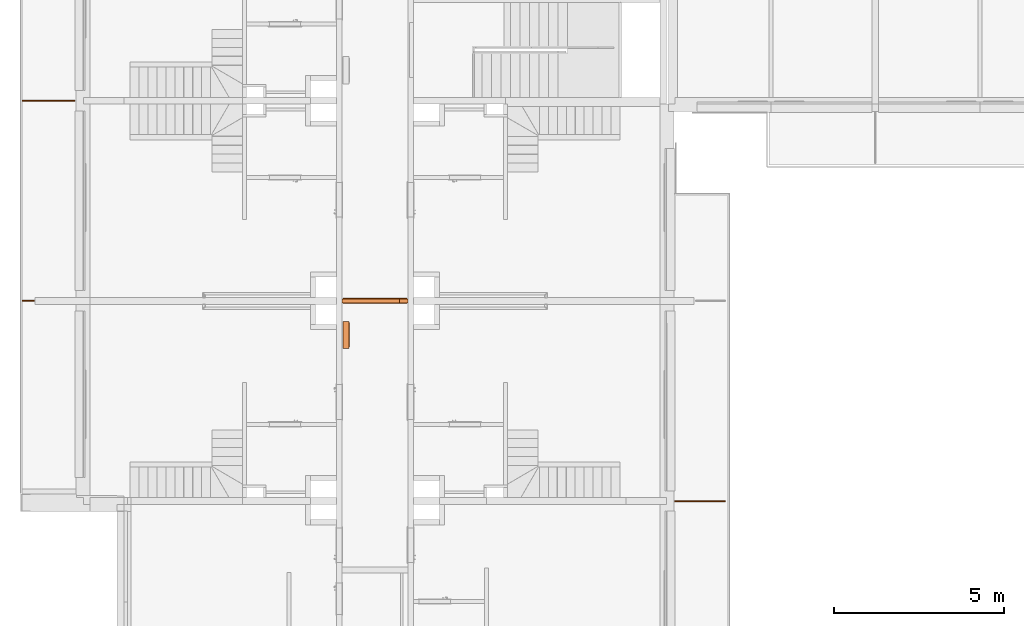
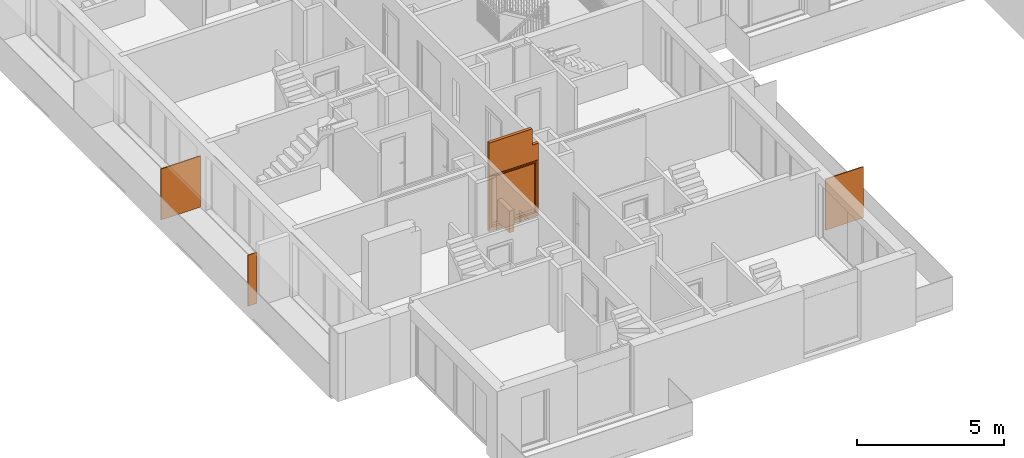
# One storey, part 11 of 61: 6 proxies, 1 opening.
"""IFC2X3 building model written with IfcOpenShell, lengths in millimetres."""

from ifc_helpers import new_model, entity, si_unit, converted_unit, derived_unit, money_unit, direction, frame, origin_with_axes, origin_2d_with_axis, place, context, subcontext, project, spatial, polyline, rectangle, outline, extrude, open_shell, faceted_brep, surface_model, source, transform, mapped, material, type_object, element, fill, save


model = new_model("IFC2X3")

# Units and contexts
model_context = context("Model", 3, precision=0.01, world=origin_with_axes(), true_north=direction((0.34421633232, 0.938890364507)))
body_context = subcontext(model_context, "Body", "Model", "MODEL_VIEW")
ifc_project = project(units=[si_unit("LENGTHUNIT", "METRE", prefix="MILLI"), si_unit("AREAUNIT", "SQUARE_METRE"), si_unit("VOLUMEUNIT", "CUBIC_METRE"), converted_unit("PLANEANGLEUNIT", "DEGREE", entity("IfcPlaneAngleMeasure", 0.0174532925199), si_unit("PLANEANGLEUNIT", "RADIAN"), dimensions=[0, 0, 0, 0, 0, 0, 0]), si_unit("SOLIDANGLEUNIT", "STERADIAN"), money_unit("USD"), converted_unit("TIMEUNIT", "Year", entity("IfcTimeMeasure", 31556926.0), si_unit("TIMEUNIT", "SECOND"), dimensions=[0, 0, 1, 0, 0, 0, 0]), si_unit("MASSUNIT", "GRAM", prefix="KILO"), si_unit("THERMODYNAMICTEMPERATUREUNIT", "DEGREE_CELSIUS"), si_unit("LUMINOUSINTENSITYUNIT", "LUMEN"), si_unit("ENERGYUNIT", "JOULE", prefix="MEGA"), derived_unit("THERMALCONDUCTANCEUNIT", [(si_unit("POWERUNIT", "WATT"), 1), (si_unit("LENGTHUNIT", "METRE"), -1), (si_unit("THERMODYNAMICTEMPERATUREUNIT", "KELVIN"), -1)]), derived_unit("SPECIFICHEATCAPACITYUNIT", [(si_unit("ENERGYUNIT", "JOULE"), 1), (si_unit("MASSUNIT", "GRAM", prefix="KILO"), -1), (si_unit("THERMODYNAMICTEMPERATUREUNIT", "KELVIN"), -1)]), derived_unit("MASSDENSITYUNIT", [(si_unit("MASSUNIT", "GRAM", prefix="KILO"), 1), (si_unit("VOLUMEUNIT", "CUBIC_METRE"), -1)])], contexts=[model_context])

# Site, building, storey
site_placement = place(None, origin_with_axes())
site = spatial("IfcSite", under=ifc_project, at=site_placement, Name="USTRONIE MORSKIE", CompositionType="ELEMENT")
building_placement = place(site_placement, origin_with_axes())
building = spatial("IfcBuilding", under=site, at=building_placement, Name="Budynek", CompositionType="ELEMENT")
storey_placement = place(building_placement, frame((0.0, 0.0, 13000.0), z_axis=(0.0, 0.0, 1.0), x_axis=(1.0, 0.0, 0.0)))
storey = spatial("IfcBuildingStorey", under=building, at=storey_placement, Name="PIĘTRO 4", CompositionType="ELEMENT", Elevation=13000.0)

# Proxies, opening
ifc_material_1 = material(Name="Bloczki silikatowe")
building_element_proxy_type_1 = type_object("IfcBuildingElementProxyType", Name="Bloczki silikatowe 120", PredefinedType="NOTDEFINED")
proxy_1_placement = place(storey_placement, frame((357517.920919, 721001.221157, -160.0), z_axis=(0.0, 0.0, 1.0), x_axis=(1.0, 0.0, 0.0)))
proxy_1 = element("IfcBuildingElementProxy", 1, at=proxy_1_placement, inside=storey, type_object=building_element_proxy_type_1, material=ifc_material_1, Name="SW-04", context=body_context, shape_type="Brep", body=[
    faceted_brep([(80.0, 59.9999999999, 3675.0), (1770.0, 59.9999999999, 3675.0), (1770.0, 59.9999999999, 3000.0), (2020.0, 59.9999999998, 3000.0), (2020.0, 59.9999999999, 0.0), (80.0, 59.9999999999, 0.0), (80.0, -59.9999999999, 3675.0), (1770.0, -59.9999999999, 3675.0), (1770.0, -60.0000920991, 3000.0), (2020.0, -59.9999999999, 3000.0), (2020.0, -59.9999999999, 0.0), (80.0, -59.9999999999, 0.0)], [[[0, 1, 2, 3, 4, 5]], [[1, 0, 6, 7]], [[8, 2, 1, 7]], [[8, 9, 3, 2]], [[9, 10, 4, 3]], [[5, 4, 10, 11]], [[11, 6, 0, 5]], [[7, 6, 11, 10, 9, 8]]]),
])
opening_placement = place(proxy_1_placement, frame((1050.0, 0.0, 160.0), z_axis=(0.0, 0.0, 1.0), x_axis=(1.0, 0.0, 0.0)))
opening = element("IfcOpeningElement", 2, at=opening_placement, cuts=proxy_1, Name="Dw.5s", context=body_context, shape_type="SweptSolid", body=[
    extrude(rectangle(XDim=1820.0, YDim=2120.0, at=origin_2d_with_axis()), frame((0.0, -120.0, 1060.0), z_axis=(0.0, 1.0, 0.0), x_axis=(1.0, 0.0, 0.0)), (0.0, 0.0, 1.0), 360.0),
    extrude(rectangle(XDim=1894.0, YDim=2157.0, at=origin_2d_with_axis()), frame((0.0, -59.9999999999, 1078.5), z_axis=(0.0, 1.0, 0.0), x_axis=(1.0, 0.0, 0.0)), (0.0, 0.0, -1.0), 120.0),
    extrude(rectangle(XDim=1894.0, YDim=2157.0, at=origin_2d_with_axis()), frame((0.0, 60.0000000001, 1078.5), z_axis=(0.0, -1.0, 0.0), x_axis=(1.0, 0.0, 0.0)), (0.0, 0.0, -1.0), 120.0),
])
building_element_proxy_type_2 = type_object("IfcBuildingElementProxyType", Name="Drzwi podwójne 23", PredefinedType="NOTDEFINED")
shared_shape_1 = source(origin_with_axes(), body_context, "Body", "SurfaceModel", [
    faceted_brep([(-910.0, -115.0, 0.0), (-885.0, -115.0, 0.0), (-885.0, -120.0, 0.0), (-910.0, -120.0, 0.0), (-910.0, -115.0, 2120.0), (-885.0, -115.0, 2095.0), (-885.0, -120.0, 2095.0), (-910.0, -120.0, 2120.0)], [[[0, 1, 2, 3]], [[0, 4, 5, 1]], [[1, 5, 6, 2]], [[3, 2, 6, 7]], [[4, 0, 3, 7]], [[5, 4, 7, 6]]]),
    faceted_brep([(910.0, -115.0, 2120.0), (885.0, -115.0, 2095.0), (885.0, -120.0, 2095.0), (910.0, -120.0, 2120.0), (910.0, -115.0, 0.0), (885.0, -115.0, 0.0), (885.0, -120.0, 0.0), (910.0, -120.0, 0.0)], [[[0, 1, 2, 3]], [[0, 4, 5, 1]], [[1, 5, 6, 2]], [[3, 2, 6, 7]], [[4, 0, 3, 7]], [[5, 4, 7, 6]]]),
    faceted_brep([(-885.0, -115.0, 2095.0), (885.0, -115.0, 2095.0), (885.0, -120.0, 2095.0), (-885.0, -120.0, 2095.0), (-910.0, -115.0, 2120.0), (910.0, -115.0, 2120.0), (910.0, -120.0, 2120.0), (-910.0, -120.0, 2120.0)], [[[0, 1, 2, 3]], [[0, 4, 5, 1]], [[1, 5, 6, 2]], [[3, 2, 6, 7]], [[4, 0, 3, 7]], [[5, 4, 7, 6]]]),
    faceted_brep([(-947.0, -139.0, 0.0), (-947.0, -120.0, 0.0), (-897.0, -120.0, 0.0), (-897.0, -139.0, 0.0), (-947.0, -139.0, 2157.0), (-947.0, -120.0, 2157.0), (-897.0, -120.0, 2107.0), (-897.0, -139.0, 2107.0)], [[[0, 1, 2, 3]], [[4, 5, 1, 0]], [[1, 5, 6, 2]], [[3, 2, 6, 7]], [[0, 3, 7, 4]], [[7, 6, 5, 4]]]),
    faceted_brep([(947.0, -139.0, 2157.0), (947.0, -120.0, 2157.0), (897.0, -120.0, 2107.0), (897.0, -139.0, 2107.0), (947.0, -139.0, 0.0), (947.0, -120.0, 0.0), (897.0, -120.0, 0.0), (897.0, -139.0, 0.0)], [[[0, 1, 2, 3]], [[4, 5, 1, 0]], [[1, 5, 6, 2]], [[3, 2, 6, 7]], [[0, 3, 7, 4]], [[7, 6, 5, 4]]]),
    faceted_brep([(-947.0, -139.0, 2157.0), (-947.0, -120.0, 2157.0), (-897.0, -120.0, 2107.0), (-897.0, -139.0, 2107.0), (947.0, -139.0, 2157.0), (947.0, -120.0, 2157.0), (897.0, -120.0, 2107.0), (897.0, -139.0, 2107.0)], [[[0, 1, 2, 3]], [[4, 5, 1, 0]], [[1, 5, 6, 2]], [[3, 2, 6, 7]], [[0, 3, 7, 4]], [[7, 6, 5, 4]]]),
    faceted_brep([(-947.0, 19.0, 0.0), (-897.0, 19.0, 0.0), (-897.0, 0.0, 0.0), (-947.0, 0.0, 0.0), (-947.0, 19.0, 2157.0), (-897.0, 19.0, 2107.0), (-897.0, 0.0, 2107.0), (-947.0, 0.0, 2157.0)], [[[0, 1, 2, 3]], [[0, 4, 5, 1]], [[1, 5, 6, 2]], [[3, 2, 6, 7]], [[4, 0, 3, 7]], [[5, 4, 7, 6]]]),
    faceted_brep([(947.0, 19.0, 2157.0), (897.0, 19.0, 2107.0), (897.0, 0.0, 2107.0), (947.0, 0.0, 2157.0), (947.0, 19.0, 0.0), (897.0, 19.0, 0.0), (897.0, 0.0, 0.0), (947.0, 0.0, 0.0)], [[[0, 1, 2, 3]], [[0, 4, 5, 1]], [[1, 5, 6, 2]], [[3, 2, 6, 7]], [[4, 0, 3, 7]], [[5, 4, 7, 6]]]),
    faceted_brep([(-947.0, 19.0, 2157.0), (-897.0, 19.0, 2107.0), (-897.0, 0.0, 2107.0), (-947.0, 0.0, 2157.0), (947.0, 19.0, 2157.0), (897.0, 19.0, 2107.0), (897.0, 0.0, 2107.0), (947.0, 0.0, 2157.0)], [[[0, 1, 2, 3]], [[0, 4, 5, 1]], [[1, 5, 6, 2]], [[3, 2, 6, 7]], [[4, 0, 3, 7]], [[5, 4, 7, 6]]]),
    faceted_brep([(-850.0, -40.0, 0.0), (-850.0, -40.0, 2050.0), (-850.0, -115.0, 2050.0), (-850.0, -115.0, 0.0), (-862.0, -40.0, 2050.0), (-862.0, -40.0, 0.0), (-862.0, 0.0, 2050.0), (-910.0, 0.0, 2050.0), (-910.0, -115.0, 2050.0), (-910.0, -115.0, 0.0), (-910.0, 0.0, 0.0), (-862.0, 0.0, 0.0)], [[[0, 1, 2, 3]], [[4, 1, 0, 5]], [[4, 6, 7, 8, 2, 1]], [[3, 2, 8, 9]], [[5, 0, 3, 9, 10, 11]], [[6, 4, 5, 11]], [[6, 11, 10, 7]], [[10, 9, 8, 7]]]),
    faceted_brep([(862.0, -40.0, 2050.0), (850.0, -40.0, 2050.0), (850.0, -115.0, 2050.0), (910.0, -115.0, 2050.0), (910.0, 0.0, 2050.0), (862.0, 0.0, 2050.0), (862.0, -40.0, 0.0), (850.0, -40.0, 0.0), (850.0, -115.0, 0.0), (910.0, -115.0, 0.0), (910.0, 0.0, 0.0), (862.0, 0.0, 0.0)], [[[0, 1, 2, 3, 4, 5]], [[1, 0, 6, 7]], [[1, 7, 8, 2]], [[3, 2, 8, 9]], [[4, 3, 9, 10]], [[11, 5, 4, 10]], [[0, 5, 11, 6]], [[6, 11, 10, 9, 8, 7]]]),
    faceted_brep([(-862.0, 0.0, 2062.0), (-862.0, 0.0, 2050.0), (-910.0, 0.0, 2050.0), (-910.0, 0.0, 2120.0), (910.0, 0.0, 2120.0), (910.0, 0.0, 2050.0), (862.0, 0.0, 2050.0), (862.0, 0.0, 2062.0), (-862.0, -40.0, 2062.0), (-862.0, -40.0, 2050.0), (-850.0, -40.0, 2050.0), (-850.0, -115.0, 2050.0), (-910.0, -115.0, 2050.0), (-910.0, -115.0, 2120.0), (910.0, -115.0, 2120.0), (910.0, -115.0, 2050.0), (862.0, -40.0, 2050.0), (850.0, -115.0, 2050.0), (850.0, -40.0, 2050.0), (862.0, -40.0, 2062.0)], [[[0, 1, 2, 3, 4, 5, 6, 7]], [[1, 0, 8, 9]], [[9, 10, 11, 12, 2, 1]], [[2, 12, 13, 3]], [[3, 13, 14, 4]], [[4, 14, 15, 5]], [[16, 6, 5, 15, 17, 18]], [[7, 6, 16, 19]], [[0, 7, 19, 8]], [[16, 18, 10, 9, 8, 19]], [[10, 18, 17, 11]], [[17, 15, 14, 13, 12, 11]]]),
    faceted_brep([(862.0, 0.0, 100.0), (862.0, -40.0, 100.0), (762.0, -40.0, 100.0), (762.0, 0.0, 100.0), (862.0, 0.0, 1962.0), (862.0, -40.0, 1962.0), (762.0, -40.0, 1962.0), (762.0, 0.0, 1962.0)], [[[0, 1, 2, 3]], [[4, 5, 1, 0]], [[1, 5, 6, 2]], [[3, 2, 6, 7]], [[0, 3, 7, 4]], [[7, 6, 5, 4]]]),
    faceted_brep([(0.0, 0.0, 100.0), (0.0, -40.0, 100.0), (0.0, -40.0, 1962.0), (0.0, 0.0, 1962.0), (100.0, 0.0, 100.0), (100.0, -40.0, 100.0), (100.0, -40.0, 1962.0), (100.0, 0.0, 1962.0)], [[[0, 1, 2, 3]], [[4, 5, 1, 0]], [[1, 5, 6, 2]], [[3, 2, 6, 7]], [[0, 3, 7, 4]], [[7, 6, 5, 4]]]),
    faceted_brep([(862.0, 0.0, 0.0), (862.0, -40.0, 0.0), (0.0, -40.0, 0.0), (0.0, 0.0, 0.0), (862.0, 0.0, 100.0), (862.0, -40.0, 100.0), (762.0, -40.0, 100.0), (100.0, -40.0, 100.0), (0.0, -40.0, 100.0), (0.0, 0.0, 100.0), (100.0, 0.0, 100.0), (762.0, 0.0, 100.0)], [[[0, 1, 2, 3]], [[4, 5, 1, 0]], [[1, 5, 6, 7, 8, 2]], [[3, 2, 8, 9]], [[0, 3, 9, 10, 11, 4]], [[11, 6, 5, 4]], [[10, 7, 6, 11]], [[9, 8, 7, 10]]]),
    faceted_brep([(862.0, 0.0, 2062.0), (862.0, -40.0, 2062.0), (862.0, -40.0, 1962.0), (862.0, 0.0, 1962.0), (0.0, 0.0, 2062.0), (0.0, -40.0, 2062.0), (0.0, -40.0, 1962.0), (100.0, -40.0, 1962.0), (762.0, -40.0, 1962.0), (762.0, 0.0, 1962.0), (100.0, 0.0, 1962.0), (0.0, 0.0, 1962.0)], [[[0, 1, 2, 3]], [[4, 5, 1, 0]], [[1, 5, 6, 7, 8, 2]], [[3, 2, 8, 9]], [[0, 3, 9, 10, 11, 4]], [[11, 6, 5, 4]], [[10, 7, 6, 11]], [[9, 8, 7, 10]]]),
    surface_model("IfcShellBasedSurfaceModel", [(762.0, -14.0, 100.0), (100.0, -14.0, 100.0), (100.0, -14.0, 1962.0), (762.0, -14.0, 1962.0)], [open_shell([[[0, 1, 2, 3]]])]),
    surface_model("IfcShellBasedSurfaceModel", [(762.0, -26.0, 100.0), (762.0, -26.0, 1962.0), (100.0, -26.0, 1962.0), (100.0, -26.0, 100.0)], [open_shell([[[0, 1, 2, 3]]])]),
    faceted_brep([(-862.0, 0.0, 100.0), (-762.0, 0.0, 100.0), (-762.0, -40.0, 100.0), (-862.0, -40.0, 100.0), (-862.0, 0.0, 1962.0), (-762.0, 0.0, 1962.0), (-762.0, -40.0, 1962.0), (-862.0, -40.0, 1962.0)], [[[0, 1, 2, 3]], [[0, 4, 5, 1]], [[1, 5, 6, 2]], [[3, 2, 6, 7]], [[4, 0, 3, 7]], [[5, 4, 7, 6]]]),
    faceted_brep([(0.0, 0.0, 100.0), (0.0, 0.0, 1962.0), (0.0, -40.0, 1962.0), (0.0, -40.0, 100.0), (-100.0, 0.0, 100.0), (-100.0, 0.0, 1962.0), (-100.0, -40.0, 1962.0), (-100.0, -40.0, 100.0)], [[[0, 1, 2, 3]], [[0, 4, 5, 1]], [[1, 5, 6, 2]], [[3, 2, 6, 7]], [[4, 0, 3, 7]], [[5, 4, 7, 6]]]),
    faceted_brep([(-862.0, 0.0, 0.0), (0.0, 0.0, 0.0), (0.0, -40.0, 0.0), (-862.0, -40.0, 0.0), (-862.0, 0.0, 100.0), (-762.0, 0.0, 100.0), (-100.0, 0.0, 100.0), (0.0, 0.0, 100.0), (0.0, -40.0, 100.0), (-100.0, -40.0, 100.0), (-762.0, -40.0, 100.0), (-862.0, -40.0, 100.0)], [[[0, 1, 2, 3]], [[0, 4, 5, 6, 7, 1]], [[1, 7, 8, 2]], [[3, 2, 8, 9, 10, 11]], [[4, 0, 3, 11]], [[5, 4, 11, 10]], [[6, 5, 10, 9]], [[7, 6, 9, 8]]]),
    faceted_brep([(-862.0, 0.0, 2062.0), (-862.0, 0.0, 1962.0), (-862.0, -40.0, 1962.0), (-862.0, -40.0, 2062.0), (0.0, 0.0, 2062.0), (0.0, 0.0, 1962.0), (-100.0, 0.0, 1962.0), (-762.0, 0.0, 1962.0), (-762.0, -40.0, 1962.0), (-100.0, -40.0, 1962.0), (0.0, -40.0, 1962.0), (0.0, -40.0, 2062.0)], [[[0, 1, 2, 3]], [[0, 4, 5, 6, 7, 1]], [[1, 7, 8, 2]], [[3, 2, 8, 9, 10, 11]], [[4, 0, 3, 11]], [[5, 4, 11, 10]], [[6, 5, 10, 9]], [[7, 6, 9, 8]]]),
    surface_model("IfcShellBasedSurfaceModel", [(-762.0, -14.0, 100.0), (-762.0, -14.0, 1962.0), (-100.0, -14.0, 1962.0), (-100.0, -14.0, 100.0)], [open_shell([[[0, 1, 2, 3]]])]),
    surface_model("IfcShellBasedSurfaceModel", [(-762.0, -26.0, 100.0), (-100.0, -26.0, 100.0), (-100.0, -26.0, 1962.0), (-762.0, -26.0, 1962.0)], [open_shell([[[0, 1, 2, 3]]])]),
])
proxy_2_placement = place(opening_placement, frame((-850.0, 0.0, 0.0), z_axis=(0.0, 0.0, 1.0), x_axis=(1.0, 0.0, 0.0)))
proxy_2 = element("IfcBuildingElementProxy", 3, at=proxy_2_placement, inside=storey, type_object=building_element_proxy_type_2, Name="Dw.5s", context=body_context, shape_type="MappedRepresentation", body=[
    mapped(shared_shape_1, transform((850.0, 60.0000000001, 0.0))),
])
fill(opening, proxy_2)

# Proxies
ifc_material_2 = material(Name="Woda")
building_element_proxy_type_3 = type_object("IfcBuildingElementProxyType", Name="Woda 30", PredefinedType="NOTDEFINED")
proxy_3_placement = place(storey_placement, frame((348517.888641, 721001.185557, 20.0), z_axis=(0.0, 0.0, 1.0), x_axis=(-0.999999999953, 9.67606483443e-06, 0.0)))
element("IfcBuildingElementProxy", 4, at=proxy_3_placement, inside=storey, type_object=building_element_proxy_type_3, material=ifc_material_2, Name="Œciana-007", context=body_context, shape_type="SweptSolid", body=[
    extrude(outline(polyline([(0.0, -15.0), (349.967722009, -15.0), (349.967722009, 15.0), (0.0, 15.0), (0.0, -15.0)])), origin_with_axes(), (0.0, 0.0, 1.0), 2120.0),
])
proxy_4_placement = place(storey_placement, frame((367397.957311, 715101.199004, 20.0), z_axis=(0.0, 0.0, 1.0), x_axis=(0.99999999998, -6.33272493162e-06, 0.0)))
element("IfcBuildingElementProxy", 5, at=proxy_4_placement, inside=storey, type_object=building_element_proxy_type_3, material=ifc_material_2, Name="Œciana-007", context=body_context, shape_type="SweptSolid", body=[
    extrude(outline(polyline([(0.0, -15.0), (1490.00000003, -15.0), (1490.00000003, 15.0000000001), (0.0, 15.0000000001), (0.0, -15.0)])), origin_with_axes(), (0.0, 0.0, 1.0), 2120.0),
])
proxy_5_placement = place(storey_placement, frame((349717.920919, 726901.199036, 20.0), z_axis=(0.0, 0.0, 1.0), x_axis=(-0.999999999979, -6.40856598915e-06, 0.0)))
element("IfcBuildingElementProxy", 6, at=proxy_5_placement, inside=storey, type_object=building_element_proxy_type_3, material=ifc_material_2, Name="Œciana-007", context=body_context, shape_type="SweptSolid", body=[
    extrude(outline(polyline([(0.0, -14.9999999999), (1550.00000003, -14.9999999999), (1550.00000003, 15.0000000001), (0.0, 15.0000000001), (0.0, -14.9999999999)])), origin_with_axes(), (0.0, 0.0, 1.0), 2120.0),
])
building_element_proxy_type_4 = type_object("IfcBuildingElementProxyType", Name="Skrzynka P-Poż 23", PredefinedType="NOTDEFINED")
shared_shape_2 = source(origin_with_axes(), body_context, "Body", "Brep", [
    faceted_brep([(0.0, 40.0, 0.0), (0.0, 20.0, 0.0), (-800.0, 20.0, 0.0), (-800.0, 40.0, 0.0), (0.0, 40.0, 900.0), (0.0, 20.0, 900.0), (-800.0, 20.0, 900.0), (-60.0, 20.0, 60.0), (-740.0, 20.0, 60.0), (-740.0, 20.0, 840.0), (-60.0, 20.0, 840.0), (-800.0, 40.0, 900.0), (-60.0, 40.0, 60.0), (-60.0, 40.0, 840.0), (-740.0, 40.0, 840.0), (-740.0, 40.0, 60.0)], [[[0, 1, 2, 3]], [[4, 5, 1, 0]], [[1, 5, 6, 2], [7, 8, 9, 10]], [[3, 2, 6, 11]], [[0, 3, 11, 4], [12, 13, 14, 15]], [[11, 6, 5, 4]], [[15, 8, 7, 12]], [[14, 9, 8, 15]], [[13, 10, 9, 14]], [[12, 7, 10, 13]]]),
    faceted_brep([(-40.0, 20.0, 40.0), (-40.0, 0.0, 40.0), (-760.0, 0.0, 40.0), (-760.0, 20.0, 40.0), (-40.0, 20.0, 860.0), (-40.0, 0.0, 860.0), (-760.0, 0.0, 860.0), (-80.0, 0.0, 80.0), (-720.0, 0.0, 80.0), (-720.0, 0.0, 820.0), (-80.0, 0.0, 820.0), (-760.0, 20.0, 860.0), (-80.0, 20.0, 80.0), (-80.0, 20.0, 820.0), (-720.0, 20.0, 820.0), (-720.0, 20.0, 80.0)], [[[0, 1, 2, 3]], [[4, 5, 1, 0]], [[1, 5, 6, 2], [7, 8, 9, 10]], [[3, 2, 6, 11]], [[0, 3, 11, 4], [12, 13, 14, 15]], [[11, 6, 5, 4]], [[15, 8, 7, 12]], [[14, 9, 8, 15]], [[13, 10, 9, 14]], [[12, 7, 10, 13]]]),
    faceted_brep([(0.0, 180.0, 0.0), (0.0, 40.0, 0.0), (-800.0, 40.0, 0.0), (-800.0, 180.0, 0.0), (0.0, 180.0, 900.0), (0.0, 40.0, 900.0), (-800.0, 40.0, 900.0), (-20.0, 40.0, 20.0), (-780.0, 40.0, 20.0), (-780.0, 40.0, 880.0), (-20.0, 40.0, 880.0), (-800.0, 180.0, 900.0), (-20.0, 180.0, 20.0), (-20.0, 180.0, 880.0), (-780.0, 180.0, 880.0), (-780.0, 180.0, 20.0)], [[[0, 1, 2, 3]], [[4, 5, 1, 0]], [[1, 5, 6, 2], [7, 8, 9, 10]], [[3, 2, 6, 11]], [[0, 3, 11, 4], [12, 13, 14, 15]], [[11, 6, 5, 4]], [[15, 8, 7, 12]], [[14, 9, 8, 15]], [[13, 10, 9, 14]], [[12, 7, 10, 13]]]),
    faceted_brep([(0.0, 200.0, 0.0), (0.0, 180.0, 0.0), (-800.0, 180.0, 0.0), (-800.0, 200.0, 0.0), (0.0, 200.0, 900.0), (0.0, 180.0, 900.0), (-800.0, 180.0, 900.0), (-800.0, 200.0, 900.0)], [[[0, 1, 2, 3]], [[4, 5, 1, 0]], [[1, 5, 6, 2]], [[3, 2, 6, 7]], [[0, 3, 7, 4]], [[7, 6, 5, 4]]]),
    faceted_brep([(-80.0, 15.0, 80.0), (-80.0, 5.0, 80.0), (-720.0, 5.0, 80.0), (-720.0, 15.0, 80.0), (-80.0, 15.0, 820.0), (-80.0, 5.0, 820.0), (-720.0, 5.0, 820.0), (-720.0, 15.0, 820.0)], [[[0, 1, 2, 3]], [[4, 5, 1, 0]], [[1, 5, 6, 2]], [[3, 2, 6, 7]], [[0, 3, 7, 4]], [[7, 6, 5, 4]]]),
    faceted_brep([(-749.659258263, 0.0, 447.411809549), (-750.0, 0.0, 450.0), (-749.659258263, 0.0, 452.588190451), (-748.660254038, 0.0, 455.0), (-747.071067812, 0.0, 457.071067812), (-745.0, 0.0, 458.660254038), (-742.588190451, 0.0, 459.659258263), (-740.0, 0.0, 460.0), (-737.411809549, 0.0, 459.659258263), (-735.0, 0.0, 458.660254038), (-732.928932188, 0.0, 457.071067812), (-731.339745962, 0.0, 455.0), (-730.340741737, 0.0, 452.588190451), (-730.0, 0.0, 450.0), (-730.340741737, 0.0, 447.411809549), (-731.339745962, 0.0, 445.0), (-732.928932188, 0.0, 442.928932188), (-735.0, 0.0, 441.339745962), (-737.411809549, 0.0, 440.340741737), (-740.0, 0.0, 440.0), (-742.588190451, 0.0, 440.340741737), (-745.0, 0.0, 441.339745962), (-747.071067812, 0.0, 442.928932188), (-748.660254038, 0.0, 445.0), (-749.659258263, -2.0, 447.411809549), (-750.0, -2.0, 450.0), (-749.659258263, -2.0, 452.588190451), (-748.660254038, -2.0, 455.0), (-747.071067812, -2.0, 457.071067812), (-745.0, -2.0, 458.660254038), (-742.588190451, -2.0, 459.659258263), (-740.0, -2.0, 460.0), (-737.411809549, -2.0, 459.659258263), (-735.0, -2.0, 458.660254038), (-732.928932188, -2.0, 457.071067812), (-731.339745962, -2.0, 455.0), (-730.340741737, -2.0, 452.588190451), (-730.0, -2.0, 450.0), (-730.340741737, -2.0, 447.411809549), (-731.339745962, -2.0, 445.0), (-732.928932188, -2.0, 442.928932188), (-735.0, -2.0, 441.339745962), (-737.411809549, -2.0, 440.340741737), (-740.0, -2.0, 440.0), (-742.588190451, -2.0, 440.340741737), (-745.0, -2.0, 441.339745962), (-747.071067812, -2.0, 442.928932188), (-748.660254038, -2.0, 445.0)], [[[0, 1, 2, 3, 4, 5, 6, 7, 8, 9, 10, 11, 12, 13, 14, 15, 16, 17, 18, 19, 20, 21, 22, 23]], [[0, 24, 25, 1]], [[1, 25, 26, 2]], [[2, 26, 27, 3]], [[3, 27, 28, 4]], [[4, 28, 29, 5]], [[5, 29, 30, 6]], [[6, 30, 31, 7]], [[7, 31, 32, 8]], [[8, 32, 33, 9]], [[9, 33, 34, 10]], [[10, 34, 35, 11]], [[11, 35, 36, 12]], [[12, 36, 37, 13]], [[13, 37, 38, 14]], [[14, 38, 39, 15]], [[15, 39, 40, 16]], [[16, 40, 41, 17]], [[17, 41, 42, 18]], [[18, 42, 43, 19]], [[19, 43, 44, 20]], [[20, 44, 45, 21]], [[21, 45, 46, 22]], [[22, 46, 47, 23]], [[23, 47, 24, 0]], [[24, 47, 46, 45, 44, 43, 42, 41, 40, 39, 38, 37, 36, 35, 34, 33, 32, 31, 30, 29, 28, 27, 26, 25]]]),
    faceted_brep([(-39.8977774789, 16.2235428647, 80.0), (-40.0, 17.0, 80.0), (-39.8977774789, 17.7764571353, 80.0), (-39.5980762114, 18.5, 80.0), (-39.1213203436, 19.1213203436, 80.0), (-38.5, 19.5980762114, 80.0), (-37.7764571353, 19.8977774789, 80.0), (-37.0, 20.0, 80.0), (-36.2235428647, 19.8977774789, 80.0), (-35.5, 19.5980762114, 80.0), (-34.8786796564, 19.1213203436, 80.0), (-34.4019237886, 18.5, 80.0), (-34.1022225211, 17.7764571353, 80.0), (-34.0, 17.0, 80.0), (-34.1022225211, 16.2235428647, 80.0), (-34.4019237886, 15.5, 80.0), (-34.8786796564, 14.8786796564, 80.0), (-35.5, 14.4019237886, 80.0), (-36.2235428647, 14.1022225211, 80.0), (-37.0, 14.0, 80.0), (-37.7764571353, 14.1022225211, 80.0), (-38.5, 14.4019237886, 80.0), (-39.1213203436, 14.8786796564, 80.0), (-39.5980762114, 15.5, 80.0), (-39.8977774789, 16.2235428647, 120.0), (-40.0, 17.0, 120.0), (-39.8977774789, 17.7764571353, 120.0), (-39.5980762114, 18.5, 120.0), (-39.1213203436, 19.1213203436, 120.0), (-38.5, 19.5980762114, 120.0), (-37.7764571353, 19.8977774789, 120.0), (-37.0, 20.0, 120.0), (-36.2235428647, 19.8977774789, 120.0), (-35.5, 19.5980762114, 120.0), (-34.8786796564, 19.1213203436, 120.0), (-34.4019237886, 18.5, 120.0), (-34.1022225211, 17.7764571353, 120.0), (-34.0, 17.0, 120.0), (-34.1022225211, 16.2235428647, 120.0), (-34.4019237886, 15.5, 120.0), (-34.8786796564, 14.8786796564, 120.0), (-35.5, 14.4019237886, 120.0), (-36.2235428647, 14.1022225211, 120.0), (-37.0, 14.0, 120.0), (-37.7764571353, 14.1022225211, 120.0), (-38.5, 14.4019237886, 120.0), (-39.1213203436, 14.8786796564, 120.0), (-39.5980762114, 15.5, 120.0)], [[[0, 1, 2, 3, 4, 5, 6, 7, 8, 9, 10, 11, 12, 13, 14, 15, 16, 17, 18, 19, 20, 21, 22, 23]], [[0, 24, 25, 1]], [[1, 25, 26, 2]], [[2, 26, 27, 3]], [[3, 27, 28, 4]], [[4, 28, 29, 5]], [[5, 29, 30, 6]], [[6, 30, 31, 7]], [[7, 31, 32, 8]], [[8, 32, 33, 9]], [[9, 33, 34, 10]], [[10, 34, 35, 11]], [[11, 35, 36, 12]], [[12, 36, 37, 13]], [[13, 37, 38, 14]], [[14, 38, 39, 15]], [[15, 39, 40, 16]], [[16, 40, 41, 17]], [[17, 41, 42, 18]], [[18, 42, 43, 19]], [[19, 43, 44, 20]], [[20, 44, 45, 21]], [[21, 45, 46, 22]], [[22, 46, 47, 23]], [[23, 47, 24, 0]], [[24, 47, 46, 45, 44, 43, 42, 41, 40, 39, 38, 37, 36, 35, 34, 33, 32, 31, 30, 29, 28, 27, 26, 25]]]),
    faceted_brep([(-39.8977774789, 16.2235428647, 780.0), (-40.0, 17.0, 780.0), (-39.8977774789, 17.7764571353, 780.0), (-39.5980762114, 18.5, 780.0), (-39.1213203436, 19.1213203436, 780.0), (-38.5, 19.5980762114, 780.0), (-37.7764571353, 19.8977774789, 780.0), (-37.0, 20.0, 780.0), (-36.2235428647, 19.8977774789, 780.0), (-35.5, 19.5980762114, 780.0), (-34.8786796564, 19.1213203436, 780.0), (-34.4019237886, 18.5, 780.0), (-34.1022225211, 17.7764571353, 780.0), (-34.0, 17.0, 780.0), (-34.1022225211, 16.2235428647, 780.0), (-34.4019237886, 15.5, 780.0), (-34.8786796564, 14.8786796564, 780.0), (-35.5, 14.4019237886, 780.0), (-36.2235428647, 14.1022225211, 780.0), (-37.0, 14.0, 780.0), (-37.7764571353, 14.1022225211, 780.0), (-38.5, 14.4019237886, 780.0), (-39.1213203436, 14.8786796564, 780.0), (-39.5980762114, 15.5, 780.0), (-39.8977774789, 16.2235428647, 820.0), (-40.0, 17.0, 820.0), (-39.8977774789, 17.7764571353, 820.0), (-39.5980762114, 18.5, 820.0), (-39.1213203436, 19.1213203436, 820.0), (-38.5, 19.5980762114, 820.0), (-37.7764571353, 19.8977774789, 820.0), (-37.0, 20.0, 820.0), (-36.2235428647, 19.8977774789, 820.0), (-35.5, 19.5980762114, 820.0), (-34.8786796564, 19.1213203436, 820.0), (-34.4019237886, 18.5, 820.0), (-34.1022225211, 17.7764571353, 820.0), (-34.0, 17.0, 820.0), (-34.1022225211, 16.2235428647, 820.0), (-34.4019237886, 15.5, 820.0), (-34.8786796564, 14.8786796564, 820.0), (-35.5, 14.4019237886, 820.0), (-36.2235428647, 14.1022225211, 820.0), (-37.0, 14.0, 820.0), (-37.7764571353, 14.1022225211, 820.0), (-38.5, 14.4019237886, 820.0), (-39.1213203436, 14.8786796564, 820.0), (-39.5980762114, 15.5, 820.0)], [[[0, 1, 2, 3, 4, 5, 6, 7, 8, 9, 10, 11, 12, 13, 14, 15, 16, 17, 18, 19, 20, 21, 22, 23]], [[0, 24, 25, 1]], [[1, 25, 26, 2]], [[2, 26, 27, 3]], [[3, 27, 28, 4]], [[4, 28, 29, 5]], [[5, 29, 30, 6]], [[6, 30, 31, 7]], [[7, 31, 32, 8]], [[8, 32, 33, 9]], [[9, 33, 34, 10]], [[10, 34, 35, 11]], [[11, 35, 36, 12]], [[12, 36, 37, 13]], [[13, 37, 38, 14]], [[14, 38, 39, 15]], [[15, 39, 40, 16]], [[16, 40, 41, 17]], [[17, 41, 42, 18]], [[18, 42, 43, 19]], [[19, 43, 44, 20]], [[20, 44, 45, 21]], [[21, 45, 46, 22]], [[22, 46, 47, 23]], [[23, 47, 24, 0]], [[24, 47, 46, 45, 44, 43, 42, 41, 40, 39, 38, 37, 36, 35, 34, 33, 32, 31, 30, 29, 28, 27, 26, 25]]]),
])
proxy_6_placement = place(storey_placement, frame((357817.920919, 720401.199036, 600.0), z_axis=(0.0, 0.0, 1.0), x_axis=(0.0, 1.0, 0.0)))
element("IfcBuildingElementProxy", 7, at=proxy_6_placement, inside=storey, type_object=building_element_proxy_type_4, Name="OB3", context=body_context, shape_type="MappedRepresentation", body=[
    mapped(shared_shape_2, transform((0.0, 0.0, 0.0))),
])

save(model, "model.ifc")
